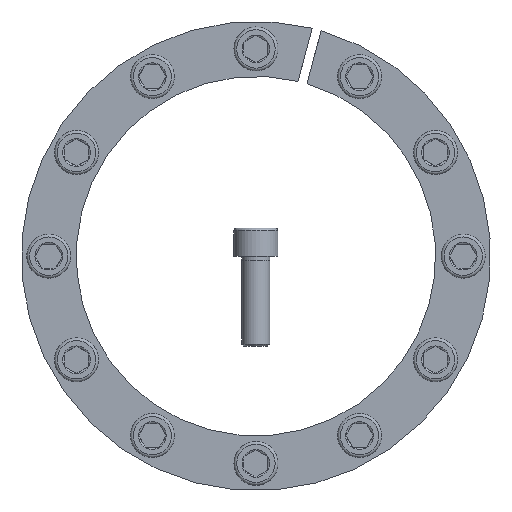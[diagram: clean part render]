
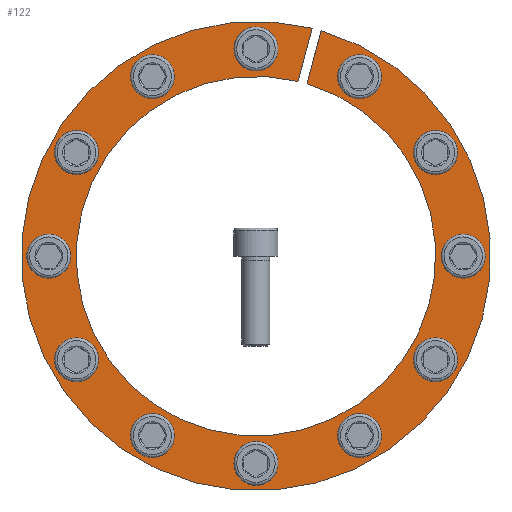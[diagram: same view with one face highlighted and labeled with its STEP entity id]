
A CAD part, front view. The second image highlights one B-rep face of the part: STEP entity #122.
In plain terms, the highlighted planar face has unit normal (0, -1, 0).
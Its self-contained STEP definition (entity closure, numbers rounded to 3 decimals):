
#122 = ADVANCED_FACE( '', ( #291, #292, #293, #294, #295, #296, #297, #298, #299, #300, #301, #302, #303 ), #304, .T. );
#291 = FACE_BOUND( '', #515, .T. );
#292 = FACE_BOUND( '', #516, .T. );
#293 = FACE_BOUND( '', #517, .T. );
#294 = FACE_BOUND( '', #518, .T. );
#295 = FACE_BOUND( '', #519, .T. );
#296 = FACE_BOUND( '', #520, .T. );
#297 = FACE_BOUND( '', #521, .T. );
#298 = FACE_BOUND( '', #522, .T. );
#299 = FACE_BOUND( '', #523, .T. );
#300 = FACE_BOUND( '', #524, .T. );
#301 = FACE_BOUND( '', #525, .T. );
#302 = FACE_BOUND( '', #526, .T. );
#303 = FACE_OUTER_BOUND( '', #527, .T. );
#304 = PLANE( '', #528 );
#515 = EDGE_LOOP( '', ( #840 ) );
#516 = EDGE_LOOP( '', ( #841 ) );
#517 = EDGE_LOOP( '', ( #842 ) );
#518 = EDGE_LOOP( '', ( #843 ) );
#519 = EDGE_LOOP( '', ( #844 ) );
#520 = EDGE_LOOP( '', ( #845 ) );
#521 = EDGE_LOOP( '', ( #846 ) );
#522 = EDGE_LOOP( '', ( #847 ) );
#523 = EDGE_LOOP( '', ( #848 ) );
#524 = EDGE_LOOP( '', ( #849 ) );
#525 = EDGE_LOOP( '', ( #850 ) );
#526 = EDGE_LOOP( '', ( #851 ) );
#527 = EDGE_LOOP( '', ( #852, #853, #854, #855 ) );
#528 = AXIS2_PLACEMENT_3D( '', #856, #857, #858 );
#840 = ORIENTED_EDGE( '', *, *, #1135, .T. );
#841 = ORIENTED_EDGE( '', *, *, #1136, .T. );
#842 = ORIENTED_EDGE( '', *, *, #1077, .T. );
#843 = ORIENTED_EDGE( '', *, *, #1137, .T. );
#844 = ORIENTED_EDGE( '', *, *, #1122, .T. );
#845 = ORIENTED_EDGE( '', *, *, #1130, .T. );
#846 = ORIENTED_EDGE( '', *, *, #1138, .T. );
#847 = ORIENTED_EDGE( '', *, *, #1139, .T. );
#848 = ORIENTED_EDGE( '', *, *, #1140, .T. );
#849 = ORIENTED_EDGE( '', *, *, #1120, .T. );
#850 = ORIENTED_EDGE( '', *, *, #1124, .T. );
#851 = ORIENTED_EDGE( '', *, *, #1141, .T. );
#852 = ORIENTED_EDGE( '', *, *, #1115, .F. );
#853 = ORIENTED_EDGE( '', *, *, #1142, .T. );
#854 = ORIENTED_EDGE( '', *, *, #1132, .T. );
#855 = ORIENTED_EDGE( '', *, *, #1087, .T. );
#856 = CARTESIAN_POINT( '', ( 0., 0., 90. ) );
#857 = DIRECTION( '', ( 0., -1., 0. ) );
#858 = DIRECTION( '', ( 0., 0., -1. ) );
#1077 = EDGE_CURVE( '', #1284, #1284, #1285, .T. );
#1087 = EDGE_CURVE( '', #1303, #1301, #1304, .T. );
#1115 = EDGE_CURVE( '', #1348, #1301, #1350, .T. );
#1120 = EDGE_CURVE( '', #1356, #1356, #1357, .T. );
#1122 = EDGE_CURVE( '', #1359, #1359, #1360, .T. );
#1124 = EDGE_CURVE( '', #1362, #1362, #1363, .T. );
#1130 = EDGE_CURVE( '', #1371, #1371, #1372, .T. );
#1132 = EDGE_CURVE( '', #1374, #1303, #1375, .T. );
#1135 = EDGE_CURVE( '', #1378, #1378, #1379, .T. );
#1136 = EDGE_CURVE( '', #1380, #1380, #1381, .T. );
#1137 = EDGE_CURVE( '', #1382, #1382, #1383, .T. );
#1138 = EDGE_CURVE( '', #1384, #1384, #1385, .T. );
#1139 = EDGE_CURVE( '', #1386, #1386, #1387, .T. );
#1140 = EDGE_CURVE( '', #1388, #1388, #1389, .T. );
#1141 = EDGE_CURVE( '', #1390, #1390, #1391, .T. );
#1142 = EDGE_CURVE( '', #1348, #1374, #1392, .T. );
#1284 = VERTEX_POINT( '', #1627 );
#1285 = CIRCLE( '', #1628, 7. );
#1301 = VERTEX_POINT( '', #1651 );
#1303 = VERTEX_POINT( '', #1654 );
#1304 = LINE( '', #1655, #1656 );
#1348 = VERTEX_POINT( '', #1709 );
#1350 = CIRCLE( '', #1712, 90. );
#1356 = VERTEX_POINT( '', #1719 );
#1357 = CIRCLE( '', #1720, 7. );
#1359 = VERTEX_POINT( '', #1722 );
#1360 = CIRCLE( '', #1723, 7. );
#1362 = VERTEX_POINT( '', #1725 );
#1363 = CIRCLE( '', #1726, 7. );
#1371 = VERTEX_POINT( '', #1734 );
#1372 = CIRCLE( '', #1735, 7. );
#1374 = VERTEX_POINT( '', #1737 );
#1375 = CIRCLE( '', #1738, 117.5 );
#1378 = VERTEX_POINT( '', #1742 );
#1379 = CIRCLE( '', #1743, 7. );
#1380 = VERTEX_POINT( '', #1744 );
#1381 = CIRCLE( '', #1745, 7. );
#1382 = VERTEX_POINT( '', #1746 );
#1383 = CIRCLE( '', #1747, 7. );
#1384 = VERTEX_POINT( '', #1748 );
#1385 = CIRCLE( '', #1749, 7. );
#1386 = VERTEX_POINT( '', #1750 );
#1387 = CIRCLE( '', #1751, 7. );
#1388 = VERTEX_POINT( '', #1752 );
#1389 = CIRCLE( '', #1753, 7. );
#1390 = VERTEX_POINT( '', #1754 );
#1391 = CIRCLE( '', #1755, 7. );
#1392 = LINE( '', #1756, #1757 );
#1627 = CARTESIAN_POINT( '', ( 93.35, 0., 45.813 ) );
#1628 = AXIS2_PLACEMENT_3D( '', #1893, #1894, #1895 );
#1651 = CARTESIAN_POINT( '', ( 25.556, 0., 86.295 ) );
#1654 = CARTESIAN_POINT( '', ( 32.675, 0., 112.865 ) );
#1655 = CARTESIAN_POINT( '', ( 32.681, 0., 112.888 ) );
#1656 = VECTOR( '', #1907, 1000. );
#1709 = CARTESIAN_POINT( '', ( 21.016, 0., 87.512 ) );
#1712 = AXIS2_PLACEMENT_3D( '', #1960, #1961, #1962 );
#1719 = CARTESIAN_POINT( '', ( -103.75, 0., 7. ) );
#1720 = AXIS2_PLACEMENT_3D( '', #1967, #1968, #1969 );
#1722 = CARTESIAN_POINT( '', ( 86.35, 0., -57.937 ) );
#1723 = AXIS2_PLACEMENT_3D( '', #1970, #1971, #1972 );
#1725 = CARTESIAN_POINT( '', ( -86.35, 0., 57.937 ) );
#1726 = AXIS2_PLACEMENT_3D( '', #1973, #1974, #1975 );
#1734 = CARTESIAN_POINT( '', ( 45.813, 0., -93.35 ) );
#1735 = AXIS2_PLACEMENT_3D( '', #1982, #1983, #1984 );
#1737 = CARTESIAN_POINT( '', ( 28.135, 0., 114.082 ) );
#1738 = AXIS2_PLACEMENT_3D( '', #1985, #1986, #1987 );
#1742 = CARTESIAN_POINT( '', ( 7., 0., 103.75 ) );
#1743 = AXIS2_PLACEMENT_3D( '', #1989, #1990, #1991 );
#1744 = CARTESIAN_POINT( '', ( 57.937, 0., 86.35 ) );
#1745 = AXIS2_PLACEMENT_3D( '', #1992, #1993, #1994 );
#1746 = CARTESIAN_POINT( '', ( 103.75, 0., -7. ) );
#1747 = AXIS2_PLACEMENT_3D( '', #1995, #1996, #1997 );
#1748 = CARTESIAN_POINT( '', ( -7., 0., -103.75 ) );
#1749 = AXIS2_PLACEMENT_3D( '', #1998, #1999, #2000 );
#1750 = CARTESIAN_POINT( '', ( -57.937, 0., -86.35 ) );
#1751 = AXIS2_PLACEMENT_3D( '', #2001, #2002, #2003 );
#1752 = CARTESIAN_POINT( '', ( -93.35, 0., -45.813 ) );
#1753 = AXIS2_PLACEMENT_3D( '', #2004, #2005, #2006 );
#1754 = CARTESIAN_POINT( '', ( -45.813, 0., 93.35 ) );
#1755 = AXIS2_PLACEMENT_3D( '', #2007, #2008, #2009 );
#1756 = CARTESIAN_POINT( '', ( 21.016, 0., 87.512 ) );
#1757 = VECTOR( '', #2010, 1000. );
#1893 = CARTESIAN_POINT( '', ( 89.85, 0., 51.875 ) );
#1894 = DIRECTION( '', ( 0., 1., 0. ) );
#1895 = DIRECTION( '', ( 0.5, 0., -0.866 ) );
#1907 = DIRECTION( '', ( -0.259, 0., -0.966 ) );
#1960 = CARTESIAN_POINT( '', ( 0., 0., 0. ) );
#1961 = DIRECTION( '', ( 0., -1., 0. ) );
#1962 = DIRECTION( '', ( 0., 0., -1. ) );
#1967 = CARTESIAN_POINT( '', ( -103.75, 0., 0. ) );
#1968 = DIRECTION( '', ( 0., 1., 0. ) );
#1969 = DIRECTION( '', ( 0., 0., 1. ) );
#1970 = CARTESIAN_POINT( '', ( 89.85, 0., -51.875 ) );
#1971 = DIRECTION( '', ( 0., 1., 0. ) );
#1972 = DIRECTION( '', ( -0.5, 0., -0.866 ) );
#1973 = CARTESIAN_POINT( '', ( -89.85, 0., 51.875 ) );
#1974 = DIRECTION( '', ( 0., 1., 0. ) );
#1975 = DIRECTION( '', ( 0.5, 0., 0.866 ) );
#1982 = CARTESIAN_POINT( '', ( 51.875, 0., -89.85 ) );
#1983 = DIRECTION( '', ( 0., 1., 0. ) );
#1984 = DIRECTION( '', ( -0.866, 0., -0.5 ) );
#1985 = CARTESIAN_POINT( '', ( 0., 0., 0. ) );
#1986 = DIRECTION( '', ( 0., -1., 0. ) );
#1987 = DIRECTION( '', ( 0., 0., -1. ) );
#1989 = CARTESIAN_POINT( '', ( 0., 0., 103.75 ) );
#1990 = DIRECTION( '', ( 0., 1., 0. ) );
#1991 = DIRECTION( '', ( 1., 0., 0. ) );
#1992 = CARTESIAN_POINT( '', ( 51.875, 0., 89.85 ) );
#1993 = DIRECTION( '', ( 0., 1., 0. ) );
#1994 = DIRECTION( '', ( 0.866, 0., -0.5 ) );
#1995 = CARTESIAN_POINT( '', ( 103.75, 0., 0. ) );
#1996 = DIRECTION( '', ( 0., 1., 0. ) );
#1997 = DIRECTION( '', ( 0., 0., -1. ) );
#1998 = CARTESIAN_POINT( '', ( 0., 0., -103.75 ) );
#1999 = DIRECTION( '', ( 0., 1., 0. ) );
#2000 = DIRECTION( '', ( -1., 0., 0. ) );
#2001 = CARTESIAN_POINT( '', ( -51.875, 0., -89.85 ) );
#2002 = DIRECTION( '', ( 0., 1., 0. ) );
#2003 = DIRECTION( '', ( -0.866, 0., 0.5 ) );
#2004 = CARTESIAN_POINT( '', ( -89.85, 0., -51.875 ) );
#2005 = DIRECTION( '', ( 0., 1., 0. ) );
#2006 = DIRECTION( '', ( -0.5, 0., 0.866 ) );
#2007 = CARTESIAN_POINT( '', ( -51.875, 0., 89.85 ) );
#2008 = DIRECTION( '', ( 0., 1., 0. ) );
#2009 = DIRECTION( '', ( 0.866, 0., 0.5 ) );
#2010 = DIRECTION( '', ( 0.259, 0., 0.966 ) );
